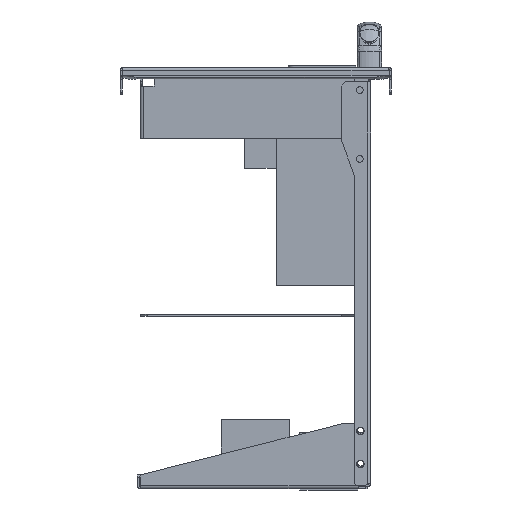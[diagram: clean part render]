
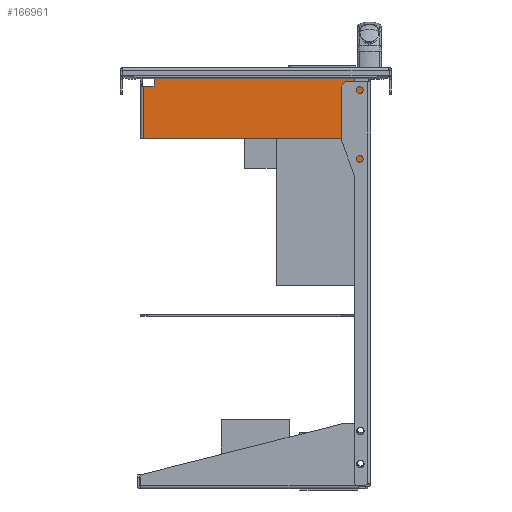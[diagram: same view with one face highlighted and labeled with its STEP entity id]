
A CAD part, left-side view. The second image highlights one B-rep face of the part: STEP entity #166961.
In plain terms, the highlighted planar face has unit normal (-1, 0, 0).
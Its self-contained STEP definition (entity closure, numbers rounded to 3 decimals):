
#152871=CARTESIAN_POINT(' ',(-111.25,24.,-145.857));
#152872=VERTEX_POINT(' ',#152871);
#152886=CARTESIAN_POINT(' ',(-111.25,24.,-2.1));
#152891=DIRECTION(' ',(0.,0.,-1.));
#152896=VECTOR(' ',#152891,1.);
#152901=LINE('',#152886,#152896);
#152906=CARTESIAN_POINT(' ',(-111.25,24.,-2.1));
#152907=VERTEX_POINT(' ',#152906);
#152911=EDGE_CURVE(' ',#152907,#152872,#152901,.T.);
#165426=CARTESIAN_POINT(' ',(-111.25,24.,-2.1));
#165431=DIRECTION(' ',(0.,-1.,0.));
#165436=VECTOR(' ',#165431,1.);
#165441=LINE('',#165426,#165436);
#165446=CARTESIAN_POINT(' ',(-111.25,-14.,-2.1));
#165447=VERTEX_POINT(' ',#165446);
#165451=EDGE_CURVE(' ',#152907,#165447,#165441,.T.);
#165586=CARTESIAN_POINT(' ',(-111.25,-14.,-10.));
#165591=DIRECTION(' ',(0.,0.,1.));
#165596=VECTOR(' ',#165591,1.);
#165601=LINE('',#165586,#165596);
#165606=CARTESIAN_POINT(' ',(-111.25,-14.,-10.));
#165607=VERTEX_POINT(' ',#165606);
#165611=EDGE_CURVE(' ',#165607,#165447,#165601,.T.);
#166566=CARTESIAN_POINT(' ',(-111.25,45.,-153.5));
#166567=VERTEX_POINT(' ',#166566);
#166581=CARTESIAN_POINT(' ',(-111.25,45.,-153.5));
#166586=DIRECTION(' ',(0.,-0.94,0.342));
#166591=VECTOR(' ',#166586,1.);
#166596=LINE('',#166581,#166591);
#166601=EDGE_CURVE(' ',#166567,#152872,#166596,.T.);
#166631=DIRECTION(' ',(-1.,0.,0.));
#166636=CARTESIAN_POINT(' ',(-111.25,-24.,-2.1));
#166641=DIRECTION(' ',(0.,1.,0.));
#166646=AXIS2_PLACEMENT_3D(' ',#166636,#166631,#166641);
#166651=PLANE('NONE',#166646);
#166656=CARTESIAN_POINT(' ',(-111.25,-22.,-156.));
#166661=DIRECTION(' ',(0.,-0.707,0.707));
#166666=VECTOR(' ',#166661,1.);
#166671=LINE('',#166656,#166666);
#166676=CARTESIAN_POINT(' ',(-111.25,-22.,-156.));
#166677=VERTEX_POINT(' ',#166676);
#166681=CARTESIAN_POINT(' ',(-111.25,-24.,-154.));
#166682=VERTEX_POINT(' ',#166681);
#166686=EDGE_CURVE(' ',#166677,#166682,#166671,.T.);
#166691=ORIENTED_EDGE(' ',*,*,#166686,.T.);
#166696=CARTESIAN_POINT(' ',(-111.25,-24.,-154.));
#166701=DIRECTION(' ',(0.,0.,1.));
#166706=VECTOR(' ',#166701,1.);
#166711=LINE('',#166696,#166706);
#166716=CARTESIAN_POINT(' ',(-111.25,-24.,-10.));
#166717=VERTEX_POINT(' ',#166716);
#166721=EDGE_CURVE(' ',#166682,#166717,#166711,.T.);
#166726=ORIENTED_EDGE(' ',*,*,#166721,.T.);
#166731=CARTESIAN_POINT(' ',(-111.25,-24.,-10.));
#166736=DIRECTION(' ',(0.,1.,0.));
#166741=VECTOR(' ',#166736,1.);
#166746=LINE('',#166731,#166741);
#166751=EDGE_CURVE(' ',#166717,#165607,#166746,.T.);
#166756=ORIENTED_EDGE(' ',*,*,#166751,.T.);
#166761=ORIENTED_EDGE(' ',*,*,#165611,.T.);
#166766=ORIENTED_EDGE(' ',*,*,#165451,.F.);
#166771=ORIENTED_EDGE(' ',*,*,#152911,.T.);
#166776=ORIENTED_EDGE(' ',*,*,#166601,.F.);
#166781=CARTESIAN_POINT(' ',(-111.25,45.,-165.));
#166786=DIRECTION(' ',(0.,0.,1.));
#166791=VECTOR(' ',#166786,1.);
#166796=LINE('',#166781,#166791);
#166801=CARTESIAN_POINT(' ',(-111.25,45.,-165.));
#166802=VERTEX_POINT(' ',#166801);
#166806=EDGE_CURVE(' ',#166802,#166567,#166796,.T.);
#166811=ORIENTED_EDGE(' ',*,*,#166806,.F.);
#166816=CARTESIAN_POINT(' ',(-111.25,45.,-165.));
#166821=DIRECTION(' ',(0.,-1.,0.));
#166826=VECTOR(' ',#166821,1.);
#166831=LINE('',#166816,#166826);
#166836=CARTESIAN_POINT(' ',(-111.25,-15.,-165.));
#166837=VERTEX_POINT(' ',#166836);
#166841=EDGE_CURVE(' ',#166802,#166837,#166831,.T.);
#166846=ORIENTED_EDGE(' ',*,*,#166841,.T.);
#166851=CARTESIAN_POINT(' ',(-111.25,-15.,-165.));
#166856=DIRECTION(' ',(0.,-0.707,0.707));
#166861=VECTOR(' ',#166856,1.);
#166866=LINE('',#166851,#166861);
#166871=CARTESIAN_POINT(' ',(-111.25,-17.,-163.));
#166872=VERTEX_POINT(' ',#166871);
#166876=EDGE_CURVE(' ',#166837,#166872,#166866,.T.);
#166881=ORIENTED_EDGE(' ',*,*,#166876,.T.);
#166886=CARTESIAN_POINT(' ',(-111.25,-17.,-163.));
#166891=DIRECTION(' ',(0.,0.,1.));
#166896=VECTOR(' ',#166891,1.);
#166901=LINE('',#166886,#166896);
#166906=CARTESIAN_POINT(' ',(-111.25,-17.,-156.));
#166907=VERTEX_POINT(' ',#166906);
#166911=EDGE_CURVE(' ',#166872,#166907,#166901,.T.);
#166916=ORIENTED_EDGE(' ',*,*,#166911,.T.);
#166921=CARTESIAN_POINT(' ',(-111.25,-17.,-156.));
#166926=DIRECTION(' ',(0.,-1.,0.));
#166931=VECTOR(' ',#166926,1.);
#166936=LINE('',#166921,#166931);
#166941=EDGE_CURVE(' ',#166907,#166677,#166936,.T.);
#166946=ORIENTED_EDGE(' ',*,*,#166941,.T.);
#166951=EDGE_LOOP(' ',(#166691,#166726,#166756,#166761,#166766,#166771,#166776,#166811,#166846,#166881,#166916,#166946));
#166956=FACE_OUTER_BOUND(' ',#166951,.T.);
#166961=ADVANCED_FACE('NONE',(#166956),#166651,.T.);
